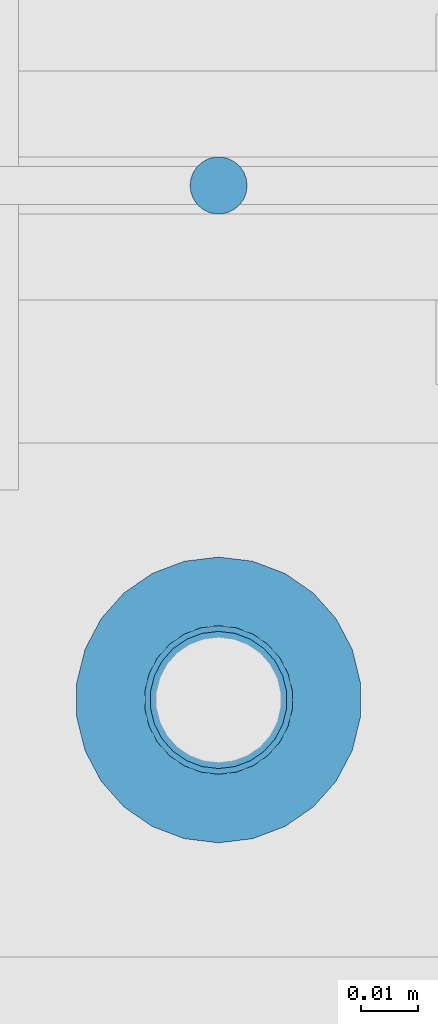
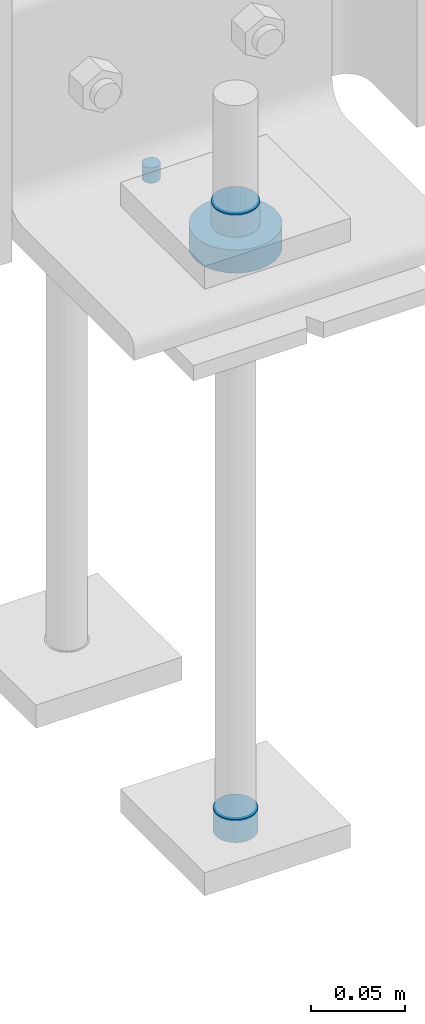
# One storey, part 95 of 123: 4 mechanical fasteners, 2 elements without a shape of their own.
"""IFC2X3 building model written with IfcOpenShell, lengths in millimetres."""

from ifc_helpers import new_model, si_unit, frame, origin_with_axes, origin_2d_with_axis, place, context, subcontext, project, spatial, circle, extrude, source, transform, mapped, material, type_object, element, aggregate, save


model = new_model("IFC2X3")

# Units and contexts
model_context = context("Model", 3, precision=1e-05, world=origin_with_axes())
body_context = subcontext(model_context, "Body", "Model", "MODEL_VIEW")
ifc_project = project(units=[si_unit("LENGTHUNIT", "METRE", prefix="MILLI"), si_unit("AREAUNIT", "SQUARE_METRE"), si_unit("VOLUMEUNIT", "CUBIC_METRE"), si_unit("MASSUNIT", "GRAM", prefix="KILO"), si_unit("TIMEUNIT", "SECOND"), si_unit("PLANEANGLEUNIT", "RADIAN"), si_unit("SOLIDANGLEUNIT", "STERADIAN"), si_unit("THERMODYNAMICTEMPERATUREUNIT", "DEGREE_CELSIUS"), si_unit("LUMINOUSINTENSITYUNIT", "LUMEN")], contexts=[model_context])

# Site, building, storey
site_placement = place(None, origin_with_axes())
site = spatial("IfcSite", under=ifc_project, at=site_placement, Name="Undefined", CompositionType="ELEMENT")
building_placement = place(site_placement, origin_with_axes())
building = spatial("IfcBuilding", under=site, at=building_placement, Name="Undefined", CompositionType="ELEMENT")
storey_placement = place(building_placement, origin_with_axes())
storey = spatial("IfcBuildingStorey", under=building, at=storey_placement, Name="Undefined", CompositionType="ELEMENT", Elevation=0.0)

# Assembly, mechanical fasteners
assembly_1_placement = place(storey_placement, origin_with_axes())
assembly_1 = element("IfcElementAssembly", 1, at=assembly_1_placement, inside=storey, Name="Steel Assembly", AssemblyPlace="NOTDEFINED", PredefinedType="RIGID_FRAME")
ifc_material = material(Name="6.8")
discrete_accessory_type = type_object("IfcDiscreteAccessoryType", Name="Bolt assembly")
shared_shape_1 = source(origin_with_axes(), body_context, "Body", "SweptSolid", [
    extrude(circle(Radius=13.0, at=origin_2d_with_axis()), frame((0.0, -15.0, 0.0), z_axis=(0.0, 1.0, 0.0), x_axis=(1.0, 0.0, 0.0)), (0.0, 0.0, 1.0), 15.1),
])
mechanical_fastener_1_placement = place(assembly_1_placement, frame((-45.0, 3709.99715044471, -235.0), z_axis=(1.0, 0.0, 0.0), x_axis=(0.0, -1.0, 0.0)))
mechanical_fastener_1 = element("IfcMechanicalFastener", 2, at=mechanical_fastener_1_placement, type_object=discrete_accessory_type, material=ifc_material, Name="Bolt assembly", NominalDiameter=24.0, NominalLength=15.0, context=body_context, shape_type="MappedRepresentation", body=[
    mapped(shared_shape_1, transform((0.0, 0.0, 0.0))),
])
shared_shape_2 = source(origin_with_axes(), body_context, "Body", "SweptSolid", [
    extrude(circle(Radius=12.0, at=origin_2d_with_axis()), frame((0.0, -15.0, 0.0), z_axis=(0.0, 1.0, 0.0), x_axis=(1.0, 0.0, 0.0)), (0.0, 0.0, 1.0), 15.1),
])
mechanical_fastener_2_placement = place(assembly_1_placement, frame((-45.0, 3709.99715044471, -630.0), z_axis=(1.0, 0.0, 0.0), x_axis=(0.0, -1.0, 0.0)))
mechanical_fastener_2 = element("IfcMechanicalFastener", 3, at=mechanical_fastener_2_placement, type_object=discrete_accessory_type, material=ifc_material, Name="Bolt assembly", NominalDiameter=22.0, NominalLength=15.0, context=body_context, shape_type="MappedRepresentation", body=[
    mapped(shared_shape_2, transform((0.0, 0.0, 0.0))),
])
shared_shape_3 = source(origin_with_axes(), body_context, "Body", "SweptSolid", [
    extrude(circle(Radius=5.0, at=origin_2d_with_axis()), frame((0.0, 0.0, 0.0), z_axis=(0.0, 1.0, 0.0), x_axis=(1.0, 0.0, 0.0)), (0.0, 0.0, 1.0), 10.1),
])
mechanical_fastener_3_placement = place(assembly_1_placement, frame((-45.0, 3800.00000007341, -250.0), z_axis=(0.0, 1.0, 0.0), x_axis=(1.0, 0.0, 0.0)))
mechanical_fastener_3 = element("IfcMechanicalFastener", 4, at=mechanical_fastener_3_placement, type_object=discrete_accessory_type, material=ifc_material, Name="Bolt assembly", NominalDiameter=8.0, NominalLength=10.0, context=body_context, shape_type="MappedRepresentation", body=[
    mapped(shared_shape_3, transform((0.0, 0.0, 0.0))),
])
aggregate(assembly_1, [mechanical_fastener_1, mechanical_fastener_2, mechanical_fastener_3])

# Assembly, mechanical fastener
assembly_2_placement = place(storey_placement, origin_with_axes())
assembly_2 = element("IfcElementAssembly", 5, at=assembly_2_placement, inside=storey, Name="Steel Assembly", AssemblyPlace="NOTDEFINED", PredefinedType="RIGID_FRAME")
shared_shape_4 = source(origin_with_axes(), body_context, "Body", "SweptSolid", [
    extrude(circle(Radius=25.0, at=origin_2d_with_axis()), frame((0.0, -15.0, 0.0), z_axis=(0.0, 1.0, 0.0), x_axis=(1.0, 0.0, 0.0)), (0.0, 0.0, 1.0), 15.1),
])
mechanical_fastener_4_placement = place(assembly_2_placement, frame((-45.0, 3710.0, -250.0), z_axis=(-1.0, 0.0, 0.0), x_axis=(0.0, 1.0, 0.0)))
mechanical_fastener_4 = element("IfcMechanicalFastener", 6, at=mechanical_fastener_4_placement, type_object=discrete_accessory_type, material=ifc_material, Name="Bolt assembly", NominalDiameter=30.0, NominalLength=15.0, context=body_context, shape_type="MappedRepresentation", body=[
    mapped(shared_shape_4, transform((0.0, 0.0, 0.0))),
])
aggregate(assembly_2, [mechanical_fastener_4])

save(model, "model.ifc")
